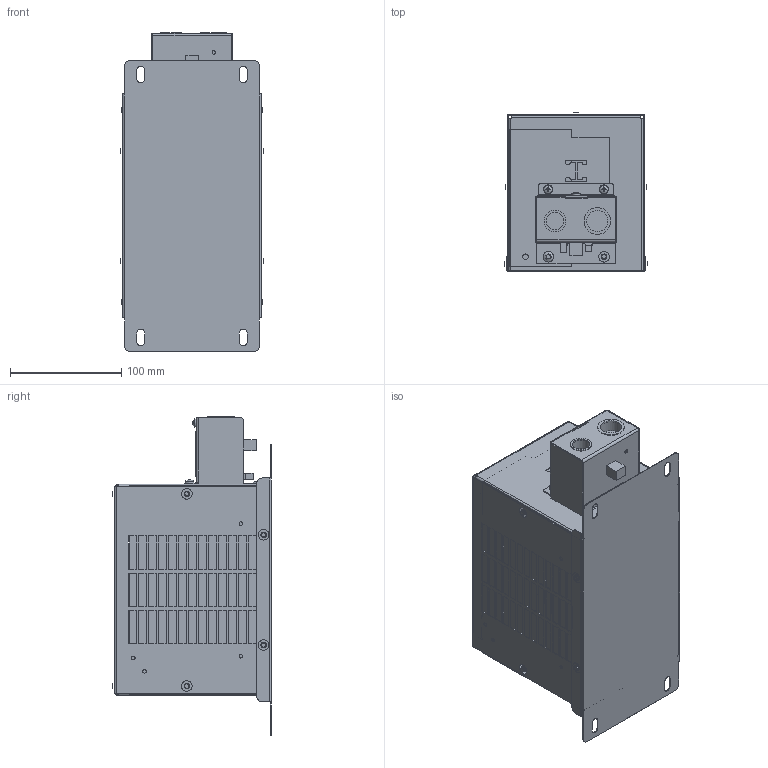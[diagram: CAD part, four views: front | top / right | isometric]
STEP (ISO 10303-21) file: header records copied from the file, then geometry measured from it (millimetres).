
FILE_DESCRIPTION(/* description */ (''),/* implementation_level */ '2;1');
FILE_NAME(/* name */ 'C:\_Vault\Dati\CATALOGO\RME\RME catalogo\RME SOSTITUTO CATALOGO\RME 01S.stp',/* time_stamp */ '2023-02-27T09:05:12+01:00',/* author */ ('claudio'),/* organization */ ('Fairfild Srl'),/* preprocessor_version */ 'ST-DEVELOPER v18.1',/* originating_system */ 'Autodesk Inventor 2022',/* authorisation */ '');
FILE_SCHEMA (('AUTOMOTIVE_DESIGN { 1 0 10303 214 3 1 1 }'));
Products named in the file (1): RME 01S catalogo-Esterno_Sostituto
Bounding box: 127.7 x 142.5 x 286.05 mm (x, y, z)
Volume: 1978046.5 mm3; surface area: 339280.8 mm2
Topology: 1 solids, 7 shells, 2469 faces, 6716 edges, 4460 vertices
Faces by surface type: plane 1614, bspline 640, cylinder 136, cone 54, torus 22, sphere 3
Full cylindrical faces by diameter (mm): 3.2 x12, 4.2 x4, 4.5 x3, 4.8 x12, 5 x21, 15.5 x1, 16.5 x1, 19 x1, 19.5 x1, 20.5 x1, 24 x1
Entity records: 83796 total; most frequent: CARTESIAN_POINT 22498, ORIENTED_EDGE 13428, DIRECTION 9442, EDGE_CURVE 6714, LINE 4938, VECTOR 4938, VERTEX_POINT 4462, EDGE_LOOP 2910
